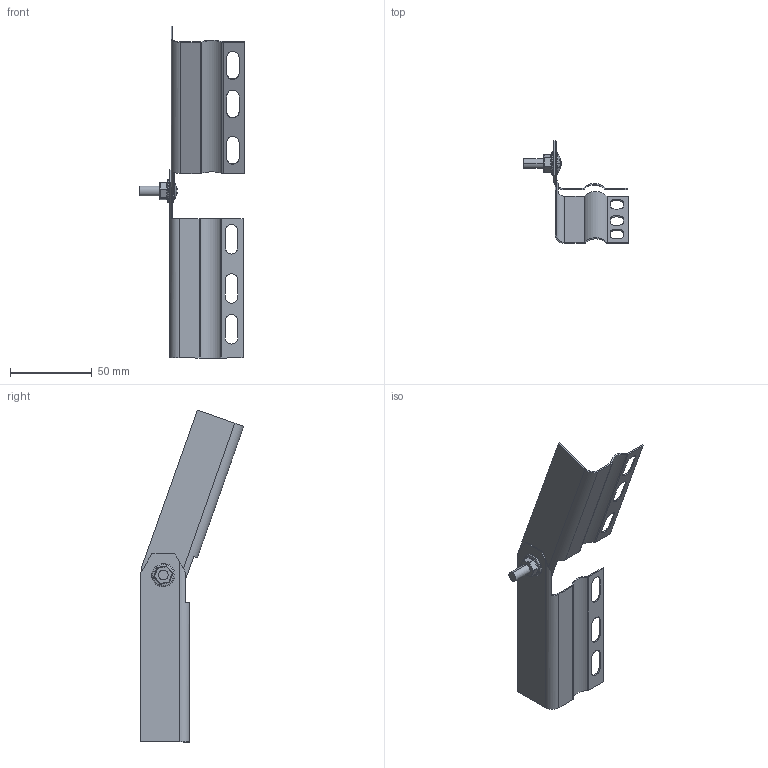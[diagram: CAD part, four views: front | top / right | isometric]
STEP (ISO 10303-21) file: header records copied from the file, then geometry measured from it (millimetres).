
FILE_DESCRIPTION (( 'STEP AP203' ), '1' );
FILE_NAME ('ERE_JUER-A H35 35.step', '2023-07-27T18:57:33', ( '' ), ( '' ), 'SwSTEP 2.0', 'SolidWorks 2022', '' );
FILE_SCHEMA (( 'CONFIG_CONTROL_DESIGN' ));
Length unit declared in the file: millimetre
Products named in the file (5): ERE_JUER-A der H35_35; ERE_JUER-A izq H35_35; tornillo B1 M6x20 Inox A2_M6x14; Tuerca M6 DIN 6923_ZZZZ x YYYY; ERE_JUER-A H35 35
Assembly tree (4 placements, depth 2):
  ERE_JUER-A H35 35
    ERE_JUER-A der H35_35
    ERE_JUER-A izq H35_35
    tornillo B1 M6x20 Inox A2_M6x14
    Tuerca M6 DIN 6923_ZZZZ x YYYY
Bounding box: 63.94 x 63.07 x 202.84 mm (x, y, z)
Volume: 11723.9 mm3; surface area: 28242.1 mm2
Topology: 4 solids, 4 shells, 232 faces, 580 edges, 352 vertices
Faces by surface type: plane 87, cylinder 73, torus 42, bspline 16, sphere 14
Entity records: 8268 total; most frequent: CARTESIAN_POINT 2244, DIRECTION 1189, ORIENTED_EDGE 1148, EDGE_CURVE 574, AXIS2_PLACEMENT_3D 471, VERTEX_POINT 352, EDGE_LOOP 252, CIRCLE 248
